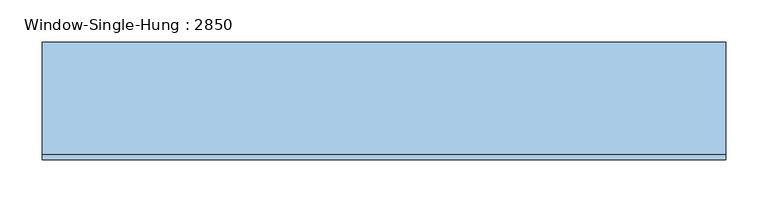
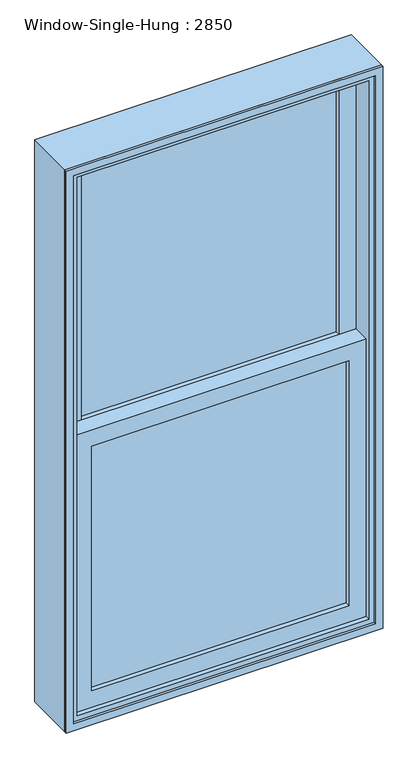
"""IFC4 building model written with IfcOpenShell, lengths in millimetres: window geometry, Window-Single-Hung : 2850."""

from ifc_helpers import new_model, si_unit, frame, origin, place, context, project, spatial, polyline, outline, extrude, source, transform, mapped, element, save


def window_single_hung_2850_d8c76df1(model_context):
    return source(origin(), model_context, "Body", "SweptSolid", [
        extrude(outline(polyline([(330.2, -9.525), (330.2, -15.875), (-330.2, -15.875), (-330.2, -9.525), (330.2, -9.525)])), frame((0.0, 0.0, 990.6), z_axis=(0.0, 0.0, 1.0), x_axis=(1.0, 0.0, 0.0)), (0.0, 0.0, 1.0), 663.575),
        extrude(outline(polyline([(-330.2, -22.225), (330.2, -22.225), (330.2, -28.575), (-330.2, -28.575), (-330.2, -22.225)])), frame((0.0, 0.0, 990.6), z_axis=(0.0, 0.0, 1.0), x_axis=(1.0, 0.0, 0.0)), (0.0, 0.0, 1.0), 663.575),
        extrude(outline(polyline([(330.2, 34.925), (330.2, 28.575), (-330.2, 28.575), (-330.2, 34.925), (330.2, 34.925)])), frame((0.0, 0.0, 1698.625), z_axis=(0.0, 0.0, 1.0), x_axis=(1.0, 0.0, 0.0)), (0.0, 0.0, 1.0), 663.575),
        extrude(outline(polyline([(-330.2, 22.225), (330.2, 22.225), (330.2, 15.875), (-330.2, 15.875), (-330.2, 22.225)])), frame((0.0, 0.0, 1698.625), z_axis=(0.0, 0.0, 1.0), x_axis=(1.0, 0.0, 0.0)), (0.0, 0.0, 1.0), 663.575),
        extrude(outline(polyline([(1698.625, -374.65), (946.15, -374.65), (946.15, 374.65), (1698.625, 374.65), (1698.625, -374.65)]), holes=[polyline([(1654.175, 330.2), (990.6, 330.2), (990.6, -330.2), (1654.175, -330.2), (1654.175, 330.2)])]), frame((0.0, -41.275, 0.0), z_axis=(0.0, 1.0, 0.0), x_axis=(0.0, 0.0, 1.0)), (0.0, 0.0, 1.0), 44.45),
        extrude(outline(polyline([(2406.65, -374.65), (1654.175, -374.65), (1654.175, 374.65), (2406.65, 374.65), (2406.65, -374.65)]), holes=[polyline([(2362.2, 330.2), (1698.625, 330.2), (1698.625, -330.2), (2362.2, -330.2), (2362.2, 330.2)])]), frame((0.0, 3.175, 0.0), z_axis=(0.0, 1.0, 0.0), x_axis=(0.0, 0.0, 1.0)), (0.0, 0.0, 1.0), 44.45),
        extrude(outline(polyline([(2438.4, -406.4), (914.4, -406.4), (914.4, 406.4), (2438.4, 406.4), (2438.4, -406.4)]), holes=[polyline([(2406.65, 374.65), (946.15, 374.65), (946.15, -374.65), (2406.65, -374.65), (2406.65, 374.65)])]), frame((0.0, -53.975, 0.0), z_axis=(0.0, 1.0, 0.0), x_axis=(0.0, 0.0, 1.0)), (0.0, 0.0, 1.0), 133.35),
        extrude(outline(polyline([(2438.4, 406.4), (2438.4, -406.4), (914.4, -406.4), (914.4, 406.4), (2438.4, 406.4)]), holes=[polyline([(2419.35, 387.35), (933.45, 387.35), (933.45, -387.35), (2419.35, -387.35), (2419.35, 387.35)])]), frame((0.0, -60.325, 0.0), z_axis=(0.0, 1.0, 0.0), x_axis=(0.0, 0.0, 1.0)), (0.0, 0.0, 1.0), 6.35),
    ])


if __name__ == "__main__":
    model = new_model("IFC4")
    model_context = context("Model", 3, world=origin())
    ifc_project = project(units=[si_unit("LENGTHUNIT", "METRE", prefix="MILLI")], contexts=[model_context])
    site = spatial("IfcSite", under=ifc_project)
    building = spatial("IfcBuilding", under=site)
    placement = place(None, origin())
    window_single_hung_2850_shape = window_single_hung_2850_d8c76df1(model_context)
    element("IfcWindow", 1, ObjectType="Window-Single-Hung : 2850", at=placement, inside=building, context=model_context, shape_type="MappedRepresentation", body=[
        mapped(window_single_hung_2850_shape, transform((0.0, 0.0, 0.0), x_axis=(1.0, 0.0, 0.0), y_axis=(0.0, 1.0, 0.0), z_axis=(0.0, 0.0, 1.0))),
    ])
    save(model, "model.ifc")
